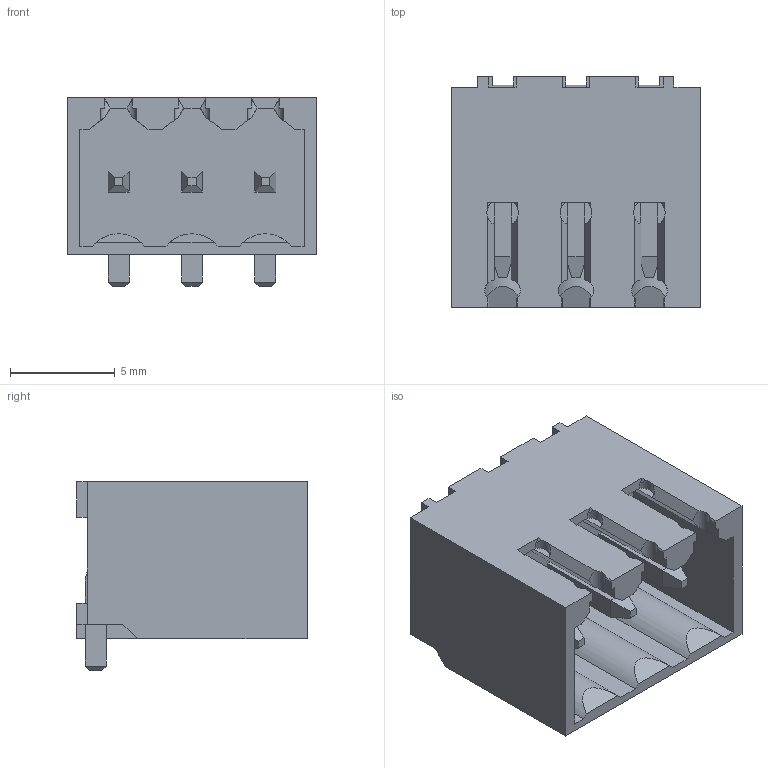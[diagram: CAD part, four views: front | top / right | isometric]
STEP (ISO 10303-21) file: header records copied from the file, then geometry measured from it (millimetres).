
FILE_DESCRIPTION((''),'2;1');
FILE_NAME('3PIN_SW0001','2019-05-27T',('zhenbing.lai'),(''),'CREO PARAMETRIC BY PTC INC, 2016260','CREO PARAMETRIC BY PTC INC, 2016260','');
FILE_SCHEMA(('CONFIG_CONTROL_DESIGN'));
Length unit declared in the file: millimetre
Products named in the file (1): 3PIN_SW0001
Bounding box: 11.9 x 11 x 9 mm (x, y, z)
Volume: 525.5 mm3; surface area: 919.5 mm2
Topology: 1 solids, 1 shells, 232 faces, 639 edges, 412 vertices
Faces by surface type: plane 214, cylinder 18
Entity records: 7324 total; most frequent: CARTESIAN_POINT 1429, ORIENTED_EDGE 1278, DIRECTION 1115, EDGE_CURVE 639, VECTOR 549, LINE 549, VERTEX_POINT 412, AXIS2_PLACEMENT_3D 283
